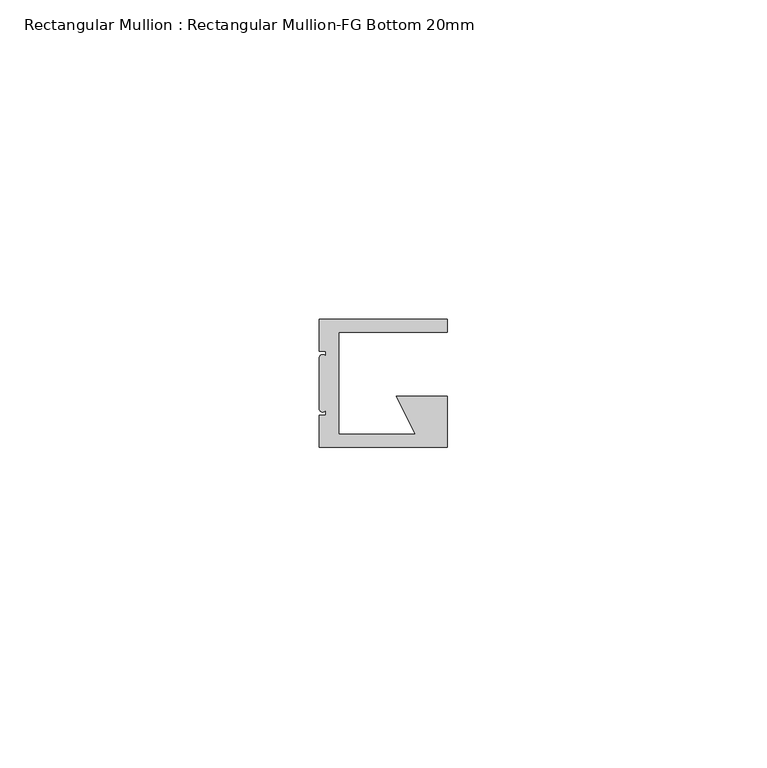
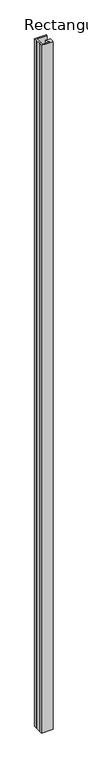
"""IFC4 building model written with IfcOpenShell, lengths in millimetres: member geometry, Rectangular Mullion : Rectangular Mullion-FG Bottom 20mm."""

from ifc_helpers import new_model, si_unit, frame, origin, place, context, project, spatial, circle_curve, source, transform, mapped, element, save
from ifc_brep_helpers import plane_surface, cylinder_surface, advanced_brep


def rectangular_mullion_rectangular_mullion_fg_bottom_20mm_8a9d94b1(model_context):
    return source(origin(), model_context, "Body", "AdvancedBrep", [
        advanced_brep(
        [(-20.0, -5.0, 0.0), (-19.0, -5.0, 0.0), (-19.0, -6.0, 0.0), (-20.0, -6.0, 0.0), (-20.0, -14.0, 0.0), (-19.0, -14.0, 0.0), (-19.0, -15.0, 0.0), (-20.0, -15.0, 0.0), (-20.0, -20.0, 0.0), (0.0, -20.0, 0.0), (0.0, -18.0, 0.0), (0.0, -12.0, 0.0), (-8.0, -12.0, 0.0), (-5.0, -18.0, 0.0), (-17.0, -18.0, 0.0), (-17.0, -2.0, 0.0), (0.0, -2.0, 0.0), (0.0, 0.0, 0.0), (-20.0, 0.0, 0.0), (-20.0, -5.0, -1246.0), (-20.0, 0.0, -1246.0), (0.0, 0.0, -1246.0), (0.0, -2.0, -1246.0), (-17.0, -2.0, -1246.0), (-17.0, -18.0, -1246.0), (-5.0, -18.0, -1246.0), (-8.0, -12.0, -1246.0), (0.0, -12.0, -1246.0), (0.0, -18.0, -1246.0), (0.0, -20.0, -1246.0), (-20.0, -20.0, -1246.0), (-20.0, -15.0, -1246.0), (-19.0, -15.0, -1246.0), (-19.0, -14.0, -1246.0), (-20.0, -14.0, -1246.0), (-20.0, -6.0, -1246.0), (-19.0, -6.0, -1246.0), (-19.0, -5.0, -1246.0)],
        [
            (0, 1),
            (1, 2),
            (2, 3, circle_curve(frame((-19.5, -6.0, 0.0), z_axis=(0.0, 0.0, 1.0), x_axis=(-1.0, 0.0, 0.0)), 0.5)),
            (3, 4),
            (4, 5, circle_curve(frame((-19.5, -14.0, 0.0), z_axis=(0.0, 0.0, 1.0), x_axis=(-1.0, 0.0, 0.0)), 0.5)),
            (5, 6),
            (6, 7),
            (7, 8),
            (8, 9),
            (9, 10),
            (10, 11),
            (11, 12),
            (12, 13),
            (13, 14),
            (14, 15),
            (15, 16),
            (16, 17),
            (17, 18),
            (18, 0),
            (19, 20),
            (20, 21),
            (21, 22),
            (22, 23),
            (23, 24),
            (24, 25),
            (25, 26),
            (26, 27),
            (27, 28),
            (28, 29),
            (29, 30),
            (30, 31),
            (31, 32),
            (32, 33),
            (33, 34, circle_curve(frame((-19.5, -14.0, -1246.0), z_axis=(0.0, 0.0, -1.0), x_axis=(-1.0, 0.0, 0.0)), 0.5)),
            (34, 35),
            (35, 36, circle_curve(frame((-19.5, -6.0, -1246.0), z_axis=(0.0, 0.0, -1.0), x_axis=(-1.0, 0.0, 0.0)), 0.5)),
            (36, 37),
            (37, 19),
            (0, 19),
            (37, 1),
            (36, 2),
            (35, 3),
            (34, 4),
            (33, 5),
            (32, 6),
            (31, 7),
            (30, 8),
            (29, 9),
            (28, 10),
            (27, 11),
            (26, 12),
            (25, 13),
            (24, 14),
            (23, 15),
            (22, 16),
            (21, 17),
            (20, 18),
        ],
        [
            plane_surface(frame((0.0, -28.2842712, 0.0), z_axis=(0.0, 0.0, 1.0), x_axis=(-1.0, 0.0, 0.0))),
            plane_surface(frame((0.0, -28.2842712, -1246.0), z_axis=(0.0, 0.0, -1.0), x_axis=(-1.0, 0.0, 0.0))),
            plane_surface(frame((-20.0, -5.0, 0.0), z_axis=(0.0, -1.0, 0.0), x_axis=(0.0, 0.0, -1.0))),
            plane_surface(frame((-19.0, -5.0, 0.0), z_axis=(-1.0, 0.0, 0.0), x_axis=(0.0, 0.0, -1.0))),
            cylinder_surface(frame((-19.5, -6.0, 0.0), z_axis=(0.0, 0.0, 1.0), x_axis=(-1.0, 0.0, 0.0)), 0.5),
            plane_surface(frame((-20.0, -6.0, 0.0), z_axis=(-1.0, 0.0, 0.0), x_axis=(0.0, 0.0, -1.0))),
            cylinder_surface(frame((-19.5, -14.0, 0.0), z_axis=(0.0, 0.0, 1.0), x_axis=(-1.0, 0.0, 0.0)), 0.5),
            plane_surface(frame((-19.0, -14.0, 0.0), z_axis=(-1.0, 0.0, 0.0), x_axis=(0.0, 0.0, -1.0))),
            plane_surface(frame((-19.0, -15.0, 0.0), z_axis=(0.0, 1.0, 0.0), x_axis=(0.0, 0.0, -1.0))),
            plane_surface(frame((-20.0, -15.0, 0.0), z_axis=(-1.0, 0.0, 0.0), x_axis=(0.0, 0.0, -1.0))),
            plane_surface(frame((-20.0, -20.0, 0.0), z_axis=(0.0, -1.0, 0.0), x_axis=(0.0, 0.0, -1.0))),
            plane_surface(frame((0.0, -20.0, 0.0), z_axis=(1.0, 0.0, 0.0), x_axis=(0.0, 0.0, -1.0))),
            plane_surface(frame((0.0, -18.0, 0.0), z_axis=(1.0, 0.0, 0.0), x_axis=(0.0, 0.0, -1.0))),
            plane_surface(frame((0.0, -12.0, 0.0), z_axis=(0.0, 1.0, 0.0), x_axis=(0.0, 0.0, -1.0))),
            plane_surface(frame((-8.0, -12.0, 0.0), z_axis=(-0.8944271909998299, -0.4472135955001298, 0.0), x_axis=(0.0, 0.0, -1.0))),
            plane_surface(frame((-5.0, -18.0, 0.0), z_axis=(0.0, 1.0, 0.0), x_axis=(0.0, 0.0, -1.0))),
            plane_surface(frame((-17.0, -18.0, 0.0), z_axis=(1.0, 0.0, 0.0), x_axis=(0.0, 0.0, -1.0))),
            plane_surface(frame((-17.0, -2.0, 0.0), z_axis=(0.0, -1.0, 0.0), x_axis=(0.0, 0.0, -1.0))),
            plane_surface(frame((0.0, -2.0, 0.0), z_axis=(1.0, 0.0, 0.0), x_axis=(0.0, 0.0, -1.0))),
            plane_surface(frame((0.0, 0.0, 0.0), z_axis=(0.0, 1.0, 0.0), x_axis=(0.0, 0.0, -1.0))),
            plane_surface(frame((-20.0, 0.0, 0.0), z_axis=(-1.0, 0.0, 0.0), x_axis=(0.0, 0.0, -1.0))),
        ],
        [
            (0, [[1, 2, 3, 4, 5, 6, 7, 8, 9, 10, 11, 12, 13, 14, 15, 16, 17, 18, 19]]),
            (1, [[20, 21, 22, 23, 24, 25, 26, 27, 28, 29, 30, 31, 32, 33, 34, 35, 36, 37, 38]]),
            (2, [[-1, 39, -38, 40]]),
            (3, [[-2, -40, -37, 41]]),
            (4, [[-3, -41, -36, 42]]),
            (5, [[-4, -42, -35, 43]]),
            (6, [[-5, -43, -34, 44]]),
            (7, [[-6, -44, -33, 45]]),
            (8, [[-7, -45, -32, 46]]),
            (9, [[-8, -46, -31, 47]]),
            (10, [[-9, -47, -30, 48]]),
            (11, [[-10, -48, -29, 49]]),
            (12, [[-11, -49, -28, 50]]),
            (13, [[-12, -50, -27, 51]]),
            (14, [[-13, -51, -26, 52]]),
            (15, [[-14, -52, -25, 53]]),
            (16, [[-15, -53, -24, 54]]),
            (17, [[-16, -54, -23, 55]]),
            (18, [[-17, -55, -22, 56]]),
            (19, [[-18, -56, -21, 57]]),
            (20, [[-19, -57, -20, -39]]),
        ],
    ),
    ])


if __name__ == "__main__":
    model = new_model("IFC4")
    model_context = context("Model", 3, world=origin())
    ifc_project = project(units=[si_unit("LENGTHUNIT", "METRE", prefix="MILLI")], contexts=[model_context])
    site = spatial("IfcSite", under=ifc_project)
    building = spatial("IfcBuilding", under=site)
    placement = place(None, origin())
    rectangular_mullion_rectangular_mullion_fg_bottom_20mm_shape = rectangular_mullion_rectangular_mullion_fg_bottom_20mm_8a9d94b1(model_context)
    element("IfcMember", 1, ObjectType="Rectangular Mullion : Rectangular Mullion-FG Bottom 20mm", at=placement, inside=building, context=model_context, shape_type="MappedRepresentation", body=[
        mapped(rectangular_mullion_rectangular_mullion_fg_bottom_20mm_shape, transform((0.0, 0.0, 0.0), x_axis=(1.0, 0.0, 0.0), y_axis=(0.0, 1.0, 0.0), z_axis=(0.0, 0.0, 1.0))),
    ])
    save(model, "model.ifc")
